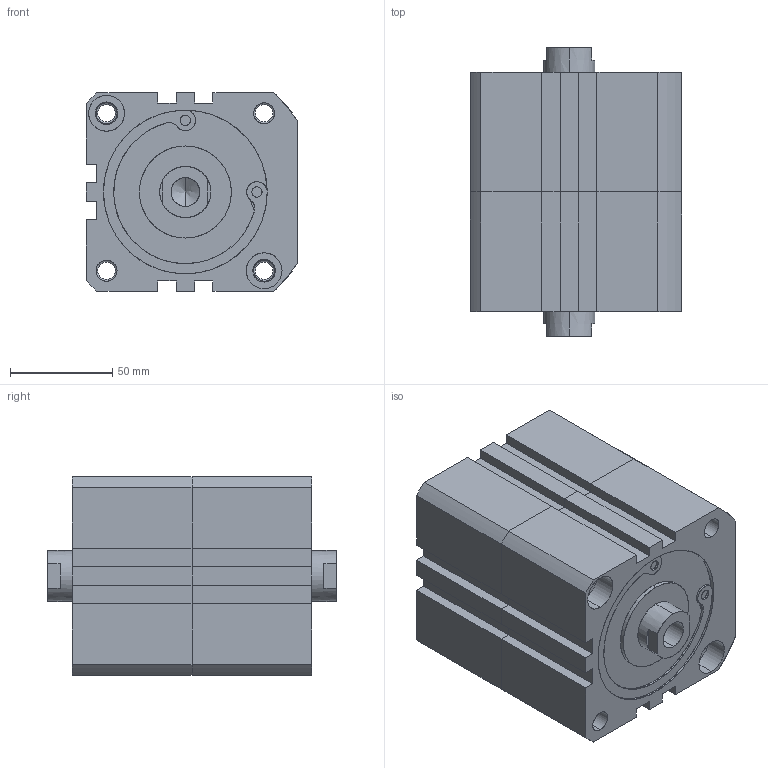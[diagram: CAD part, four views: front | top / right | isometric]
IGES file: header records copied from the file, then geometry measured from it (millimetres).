
Start section: SolidWorks IGES file using analytic representation for surfaces
Global section: file name: C:\Users\Toshiba\Desktop\XCD7-80-10-10(L).IGS; native system: SolidWorks 2014; preprocessor: SolidWorks 2014; author: Toshiba; date: 160805.094053; units: millimetre
Bounding box: 103.5 x 141 x 97 mm (x, y, z)
Surface area: 115124.6 mm2 (no closed solid volume)
Topology: 0 solids, 0 shells, 222 faces, 3726 edges, 3714 vertices
Faces by surface type: revolution 130, bspline 92
